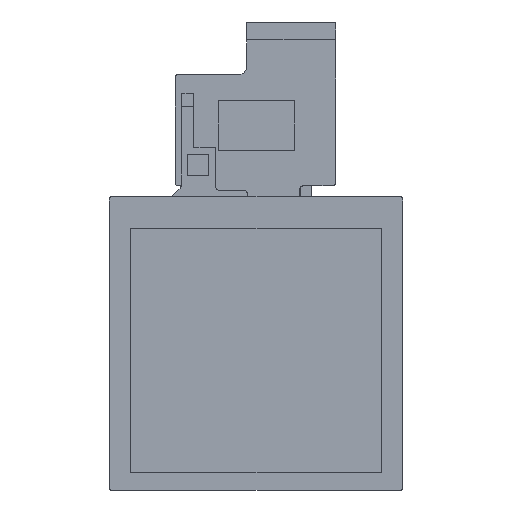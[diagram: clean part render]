
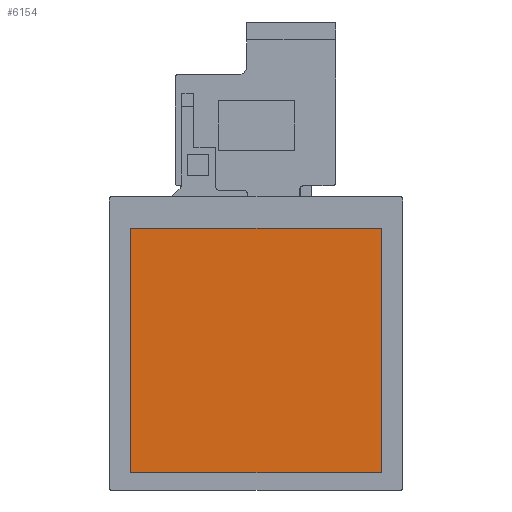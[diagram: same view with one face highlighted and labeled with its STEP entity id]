
A CAD part, front view. The second image highlights one B-rep face of the part: STEP entity #6154.
In plain terms, the highlighted planar face has unit normal (0, -1, 0).
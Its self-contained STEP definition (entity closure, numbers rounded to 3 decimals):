
#47 = VERTEX_POINT ( 'NONE', #9831 ) ;
#379 = CARTESIAN_POINT ( 'NONE',  ( 5.772, -1.25, -78.788 ) ) ;
#756 = DIRECTION ( 'NONE',  ( 0., 0., 1. ) ) ;
#1083 = DIRECTION ( 'NONE',  ( -1., 0., 0. ) ) ;
#1770 = VERTEX_POINT ( 'NONE', #4962 ) ;
#2265 = PLANE ( 'NONE',  #3317 ) ;
#3317 = AXIS2_PLACEMENT_3D ( 'NONE', #19176, #9996, #756 ) ;
#3376 = EDGE_LOOP ( 'NONE', ( #9447, #4847, #7553, #6641 ) ) ;
#4040 = LINE ( 'NONE', #5902, #12208 ) ;
#4149 = CARTESIAN_POINT ( 'NONE',  ( 77.628, -1.25, -78.788 ) ) ;
#4328 = VECTOR ( 'NONE', #19505, 1000. ) ;
#4847 = ORIENTED_EDGE ( 'NONE', *, *, #19244, .T. ) ;
#4962 = CARTESIAN_POINT ( 'NONE',  ( 77.628, -1.25, -8.612 ) ) ;
#5860 = CARTESIAN_POINT ( 'NONE',  ( 5.772, -1.25, -8.612 ) ) ;
#5902 = CARTESIAN_POINT ( 'NONE',  ( 77.628, -1.25, -8.612 ) ) ;
#6154 = ADVANCED_FACE ( 'NONE', ( #10021 ), #2265, .F. ) ;
#6641 = ORIENTED_EDGE ( 'NONE', *, *, #17583, .T. ) ;
#7553 = ORIENTED_EDGE ( 'NONE', *, *, #8584, .T. ) ;
#8118 = DIRECTION ( 'NONE',  ( 0., 0., -1. ) ) ;
#8412 = LINE ( 'NONE', #4149, #4328 ) ;
#8537 = LINE ( 'NONE', #379, #16687 ) ;
#8584 = EDGE_CURVE ( 'NONE', #13548, #17275, #8537, .T. ) ;
#9447 = ORIENTED_EDGE ( 'NONE', *, *, #14246, .T. ) ;
#9831 = CARTESIAN_POINT ( 'NONE',  ( 77.628, -1.25, -78.788 ) ) ;
#9996 = DIRECTION ( 'NONE',  ( 0., 1., 0. ) ) ;
#10021 = FACE_OUTER_BOUND ( 'NONE', #3376, .T. ) ;
#10382 = CARTESIAN_POINT ( 'NONE',  ( 5.772, -1.25, -8.612 ) ) ;
#11542 = LINE ( 'NONE', #10382, #19719 ) ;
#12208 = VECTOR ( 'NONE', #16559, 1000. ) ;
#12679 = CARTESIAN_POINT ( 'NONE',  ( 5.772, -1.25, -78.788 ) ) ;
#13548 = VERTEX_POINT ( 'NONE', #5860 ) ;
#14246 = EDGE_CURVE ( 'NONE', #47, #1770, #4040, .T. ) ;
#16559 = DIRECTION ( 'NONE',  ( 0., 0., 1. ) ) ;
#16687 = VECTOR ( 'NONE', #8118, 1000. ) ;
#17275 = VERTEX_POINT ( 'NONE', #12679 ) ;
#17583 = EDGE_CURVE ( 'NONE', #17275, #47, #8412, .T. ) ;
#19176 = CARTESIAN_POINT ( 'NONE',  ( 0., -1.25, 0. ) ) ;
#19244 = EDGE_CURVE ( 'NONE', #1770, #13548, #11542, .T. ) ;
#19505 = DIRECTION ( 'NONE',  ( 1., 0., 0. ) ) ;
#19719 = VECTOR ( 'NONE', #1083, 1000. ) ;
